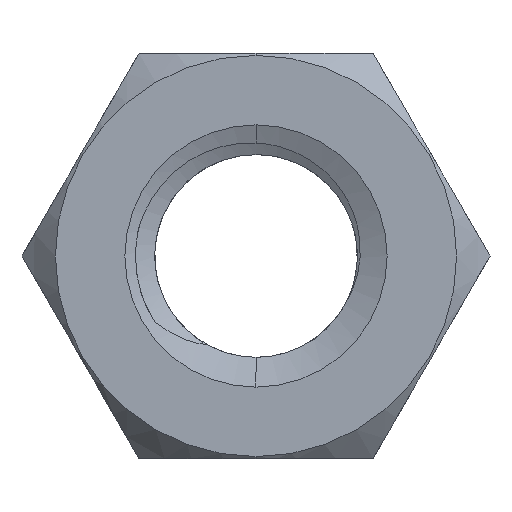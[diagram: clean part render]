
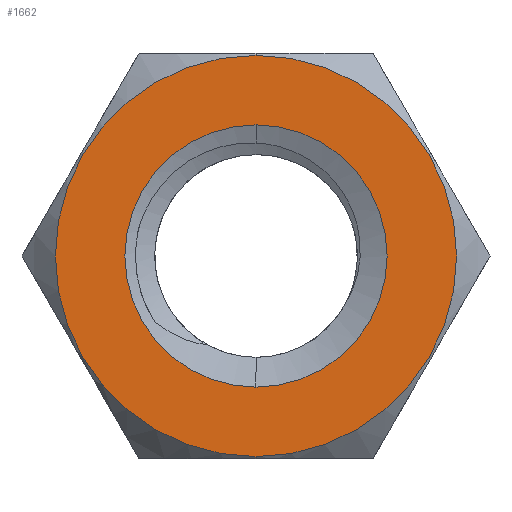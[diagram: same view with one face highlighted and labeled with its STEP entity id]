
A CAD part, front view. The second image highlights one B-rep face of the part: STEP entity #1662.
In plain terms, the highlighted planar face has unit normal (0, -1, 0).
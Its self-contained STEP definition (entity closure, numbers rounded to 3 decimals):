
#10 = CARTESIAN_POINT ( 'NONE',  ( 0., -2.4, -8.415 ) ) ;
#64 = EDGE_CURVE ( 'NONE', #2257, #1058, #1565, .T. ) ;
#145 = VERTEX_POINT ( 'NONE', #1363 ) ;
#146 = DIRECTION ( 'NONE',  ( 0., 0., -1. ) ) ;
#174 = DIRECTION ( 'NONE',  ( 0., -1., 0. ) ) ;
#195 = EDGE_CURVE ( 'NONE', #2375, #145, #1090, .T. ) ;
#315 = DIRECTION ( 'NONE',  ( 0., 1., 0. ) ) ;
#471 = CIRCLE ( 'NONE', #867, 8.415 ) ;
#499 = CARTESIAN_POINT ( 'NONE',  ( 0., -2.4, 0. ) ) ;
#517 = DIRECTION ( 'NONE',  ( 0., 0., 1. ) ) ;
#556 = CARTESIAN_POINT ( 'NONE',  ( 0., -2.4, -5.5 ) ) ;
#611 = DIRECTION ( 'NONE',  ( 0., 0., -1. ) ) ;
#633 = CARTESIAN_POINT ( 'NONE',  ( 0., -2.4, 8.415 ) ) ;
#674 = DIRECTION ( 'NONE',  ( 0., -1., 0. ) ) ;
#732 = FACE_BOUND ( 'NONE', #1563, .T. ) ;
#858 = EDGE_CURVE ( 'NONE', #1058, #2257, #471, .T. ) ;
#867 = AXIS2_PLACEMENT_3D ( 'NONE', #1830, #174, #1789 ) ;
#931 = EDGE_CURVE ( 'NONE', #145, #2375, #1097, .T. ) ;
#992 = ORIENTED_EDGE ( 'NONE', *, *, #64, .T. ) ;
#1058 = VERTEX_POINT ( 'NONE', #633 ) ;
#1065 = PLANE ( 'NONE',  #1372 ) ;
#1090 = CIRCLE ( 'NONE', #1944, 5.5 ) ;
#1097 = CIRCLE ( 'NONE', #2228, 5.5 ) ;
#1262 = ORIENTED_EDGE ( 'NONE', *, *, #858, .T. ) ;
#1310 = CARTESIAN_POINT ( 'NONE',  ( 0., -2.4, 0. ) ) ;
#1363 = CARTESIAN_POINT ( 'NONE',  ( 0., -2.4, 5.5 ) ) ;
#1372 = AXIS2_PLACEMENT_3D ( 'NONE', #2215, #315, #517 ) ;
#1387 = DIRECTION ( 'NONE',  ( 0., -1., 0. ) ) ;
#1563 = EDGE_LOOP ( 'NONE', ( #1888, #1946 ) ) ;
#1565 = CIRCLE ( 'NONE', #2063, 8.415 ) ;
#1660 = DIRECTION ( 'NONE',  ( 0., -1., 0. ) ) ;
#1662 = ADVANCED_FACE ( 'NONE', ( #732, #1797 ), #1065, .F. ) ;
#1789 = DIRECTION ( 'NONE',  ( 0., 0., -1. ) ) ;
#1797 = FACE_OUTER_BOUND ( 'NONE', #2136, .T. ) ;
#1802 = CARTESIAN_POINT ( 'NONE',  ( 0., -2.4, 0. ) ) ;
#1830 = CARTESIAN_POINT ( 'NONE',  ( 0., -2.4, 0. ) ) ;
#1888 = ORIENTED_EDGE ( 'NONE', *, *, #931, .F. ) ;
#1944 = AXIS2_PLACEMENT_3D ( 'NONE', #499, #1387, #611 ) ;
#1946 = ORIENTED_EDGE ( 'NONE', *, *, #195, .F. ) ;
#2057 = DIRECTION ( 'NONE',  ( 0., 0., -1. ) ) ;
#2063 = AXIS2_PLACEMENT_3D ( 'NONE', #1310, #1660, #2057 ) ;
#2136 = EDGE_LOOP ( 'NONE', ( #1262, #992 ) ) ;
#2215 = CARTESIAN_POINT ( 'NONE',  ( 0., -2.4, 0. ) ) ;
#2228 = AXIS2_PLACEMENT_3D ( 'NONE', #1802, #674, #146 ) ;
#2257 = VERTEX_POINT ( 'NONE', #10 ) ;
#2375 = VERTEX_POINT ( 'NONE', #556 ) ;
